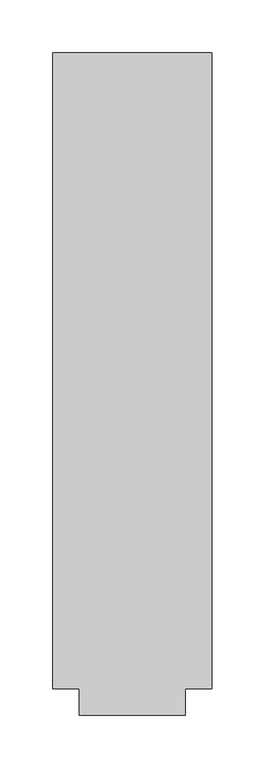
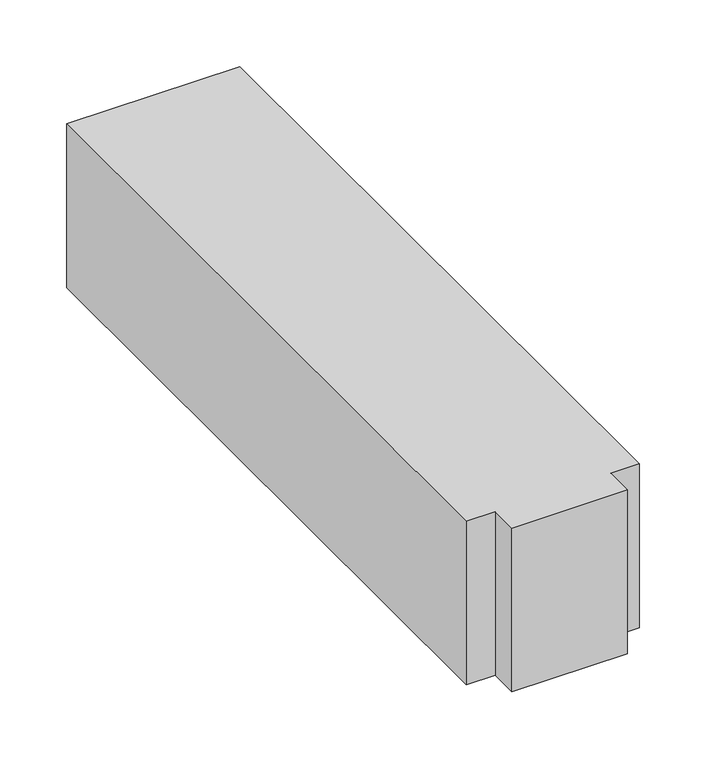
"""IFC4 building model written with IfcOpenShell, lengths in millimetres: duct fitting geometry, M_Te rectangular : Estándar."""

from ifc_helpers import new_model, si_unit, frame, origin, place, context, project, spatial, polyline, outline, extrude, source, transform, mapped, element, save


def duct_fitting_9f2dd05e(model_context):
    return source(origin(), model_context, "Body", "SweptSolid", [
        extrude(outline(polyline([(-75.0, -300.0), (-75.0, 300.0), (75.0, 300.0), (75.0, -300.0), (50.0, -300.0), (50.0, -325.0), (-50.0, -325.0), (-50.0, -300.0), (-75.0, -300.0)])), frame((0.0, 0.0, -75.0), z_axis=(0.0, 0.0, 1.0), x_axis=(1.0, 0.0, 0.0)), (0.0, 0.0, 1.0), 150.0),
    ])


if __name__ == "__main__":
    model = new_model("IFC4")
    model_context = context("Model", 3, world=origin())
    ifc_project = project(units=[si_unit("LENGTHUNIT", "METRE", prefix="MILLI")], contexts=[model_context])
    site = spatial("IfcSite", under=ifc_project)
    building = spatial("IfcBuilding", under=site)
    placement = place(None, origin())
    duct_fitting_shape = duct_fitting_9f2dd05e(model_context)
    element("IfcDuctFitting", 1, ObjectType="M_Te rectangular : Estándar", at=placement, inside=building, context=model_context, shape_type="MappedRepresentation", body=[
        mapped(duct_fitting_shape, transform((0.0, 0.0, 0.0), x_axis=(1.0, 0.0, 0.0), y_axis=(0.0, 1.0, 0.0), z_axis=(0.0, 0.0, 1.0))),
    ])
    save(model, "model.ifc")
